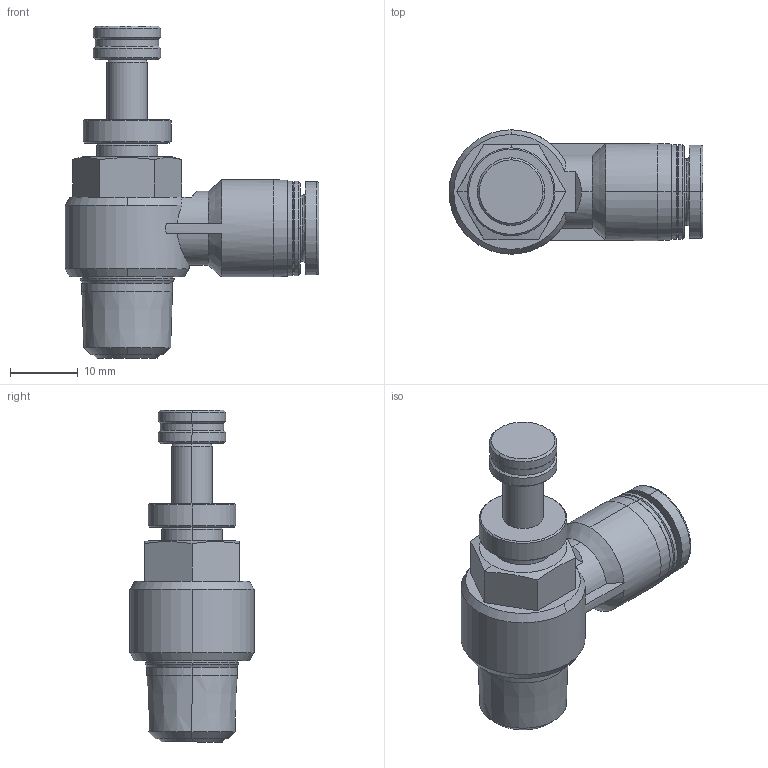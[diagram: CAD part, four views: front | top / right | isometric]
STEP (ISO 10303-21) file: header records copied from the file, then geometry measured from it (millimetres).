
FILE_DESCRIPTION (( 'STEP AP214' ), '1' );
FILE_NAME ('AJSC8-02.STEP', '2019-12-06T02:47:20', ( '微软用户' ), ( '微软中国' ), 'SwSTEP 2.0', 'SolidWorks 2016', '' );
FILE_SCHEMA (( 'AUTOMOTIVE_DESIGN' ));
Length unit declared in the file: millimetre
Products named in the file (1): AJSC8-02
Bounding box: 37.6 x 18.4 x 49.15 mm (x, y, z)
Volume: 8814.5 mm3; surface area: 4223.4 mm2
Topology: 1 solids, 1 shells, 120 faces, 269 edges, 163 vertices
Faces by surface type: cone 53, cylinder 35, plane 26, bspline 6
Entity records: 3855 total; most frequent: CARTESIAN_POINT 1131, DIRECTION 602, ORIENTED_EDGE 538, EDGE_CURVE 269, AXIS2_PLACEMENT_3D 253, VERTEX_POINT 163, CIRCLE 138, EDGE_LOOP 132
